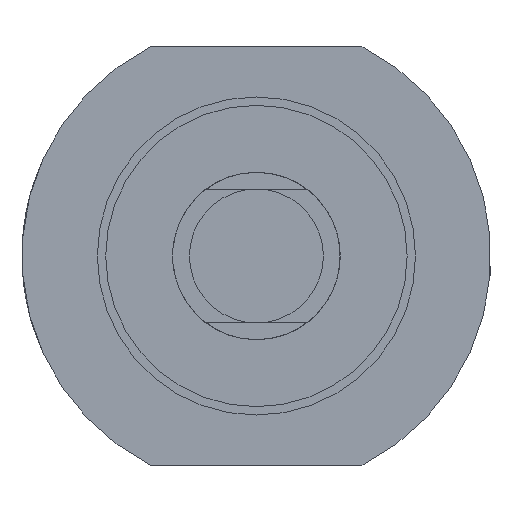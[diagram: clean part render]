
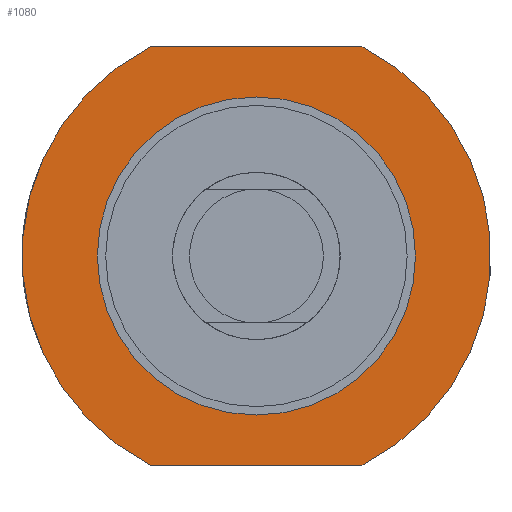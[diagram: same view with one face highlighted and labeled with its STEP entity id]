
A CAD part, left-side view. The second image highlights one B-rep face of the part: STEP entity #1080.
In plain terms, the highlighted planar face has unit normal (-1, 0, 0).
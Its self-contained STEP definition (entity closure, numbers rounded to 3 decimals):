
#20 = EDGE_LOOP ( 'NONE', ( #510, #26, #132, #879 ) ) ;
#26 = ORIENTED_EDGE ( 'NONE', *, *, #1474, .F. ) ;
#51 = FACE_OUTER_BOUND ( 'NONE', #20, .T. ) ;
#73 = DIRECTION ( 'NONE',  ( 0., 0., 1. ) ) ;
#132 = ORIENTED_EDGE ( 'NONE', *, *, #314, .T. ) ;
#164 = DIRECTION ( 'NONE',  ( 1., 0., 0. ) ) ;
#195 = CIRCLE ( 'NONE', #785, 14. ) ;
#221 = VERTEX_POINT ( 'NONE', #360 ) ;
#223 = VERTEX_POINT ( 'NONE', #1677 ) ;
#242 = CARTESIAN_POINT ( 'NONE',  ( 34., 0., 0. ) ) ;
#314 = EDGE_CURVE ( 'NONE', #348, #1141, #570, .T. ) ;
#316 = AXIS2_PLACEMENT_3D ( 'NONE', #345, #164, #568 ) ;
#334 = CARTESIAN_POINT ( 'NONE',  ( 34., 0., 0. ) ) ;
#345 = CARTESIAN_POINT ( 'NONE',  ( 34., 0., -14. ) ) ;
#348 = VERTEX_POINT ( 'NONE', #444 ) ;
#360 = CARTESIAN_POINT ( 'NONE',  ( 34., 0., 9.5 ) ) ;
#366 = DIRECTION ( 'NONE',  ( 0., 0., 1. ) ) ;
#397 = VECTOR ( 'NONE', #1061, 1000. ) ;
#401 = EDGE_CURVE ( 'NONE', #223, #539, #195, .T. ) ;
#444 = CARTESIAN_POINT ( 'NONE',  ( 34., -6.305, -12.5 ) ) ;
#469 = LINE ( 'NONE', #1314, #1321 ) ;
#510 = ORIENTED_EDGE ( 'NONE', *, *, #401, .T. ) ;
#539 = VERTEX_POINT ( 'NONE', #1658 ) ;
#547 = CARTESIAN_POINT ( 'NONE',  ( 34., -6.305, 12.5 ) ) ;
#568 = DIRECTION ( 'NONE',  ( 0., 0., -1. ) ) ;
#570 = CIRCLE ( 'NONE', #1343, 14. ) ;
#592 = CIRCLE ( 'NONE', #1511, 9.5 ) ;
#616 = DIRECTION ( 'NONE',  ( -1., 0., 0. ) ) ;
#751 = ORIENTED_EDGE ( 'NONE', *, *, #1247, .F. ) ;
#770 = LINE ( 'NONE', #1093, #397 ) ;
#785 = AXIS2_PLACEMENT_3D ( 'NONE', #334, #1625, #1082 ) ;
#789 = DIRECTION ( 'NONE',  ( 0., 0., 1. ) ) ;
#821 = AXIS2_PLACEMENT_3D ( 'NONE', #1519, #616, #73 ) ;
#879 = ORIENTED_EDGE ( 'NONE', *, *, #1306, .F. ) ;
#929 = DIRECTION ( 'NONE',  ( 0., -1., 0. ) ) ;
#1009 = EDGE_LOOP ( 'NONE', ( #751, #1241 ) ) ;
#1021 = DIRECTION ( 'NONE',  ( -1., 0., 0. ) ) ;
#1052 = CARTESIAN_POINT ( 'NONE',  ( 34., 0., -9.5 ) ) ;
#1061 = DIRECTION ( 'NONE',  ( 0., 1., 0. ) ) ;
#1080 = ADVANCED_FACE ( 'NONE', ( #1580, #51 ), #1095, .F. ) ;
#1082 = DIRECTION ( 'NONE',  ( 0., 0., 1. ) ) ;
#1093 = CARTESIAN_POINT ( 'NONE',  ( 34., 11.874, -12.5 ) ) ;
#1095 = PLANE ( 'NONE',  #316 ) ;
#1141 = VERTEX_POINT ( 'NONE', #547 ) ;
#1168 = CARTESIAN_POINT ( 'NONE',  ( 34., 0., 0. ) ) ;
#1241 = ORIENTED_EDGE ( 'NONE', *, *, #1364, .F. ) ;
#1247 = EDGE_CURVE ( 'NONE', #221, #1556, #592, .T. ) ;
#1306 = EDGE_CURVE ( 'NONE', #223, #1141, #469, .T. ) ;
#1314 = CARTESIAN_POINT ( 'NONE',  ( 34., 11.874, 12.5 ) ) ;
#1316 = DIRECTION ( 'NONE',  ( -1., 0., 0. ) ) ;
#1321 = VECTOR ( 'NONE', #929, 1000. ) ;
#1343 = AXIS2_PLACEMENT_3D ( 'NONE', #1168, #1021, #789 ) ;
#1364 = EDGE_CURVE ( 'NONE', #1556, #221, #1569, .T. ) ;
#1474 = EDGE_CURVE ( 'NONE', #348, #539, #770, .T. ) ;
#1511 = AXIS2_PLACEMENT_3D ( 'NONE', #242, #1316, #366 ) ;
#1519 = CARTESIAN_POINT ( 'NONE',  ( 34., 0., 0. ) ) ;
#1556 = VERTEX_POINT ( 'NONE', #1052 ) ;
#1569 = CIRCLE ( 'NONE', #821, 9.5 ) ;
#1580 = FACE_BOUND ( 'NONE', #1009, .T. ) ;
#1625 = DIRECTION ( 'NONE',  ( -1., 0., 0. ) ) ;
#1658 = CARTESIAN_POINT ( 'NONE',  ( 34., 6.305, -12.5 ) ) ;
#1677 = CARTESIAN_POINT ( 'NONE',  ( 34., 6.305, 12.5 ) ) ;
